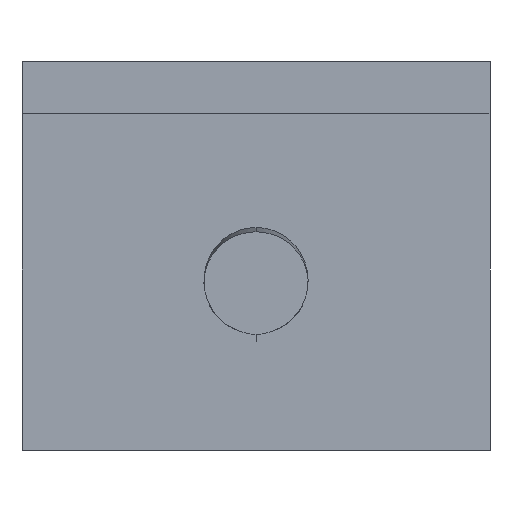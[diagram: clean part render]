
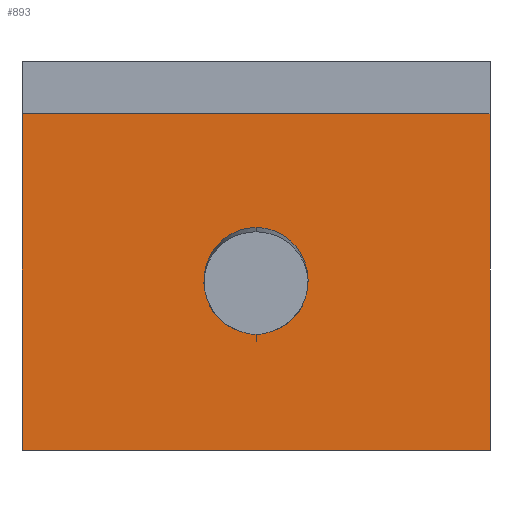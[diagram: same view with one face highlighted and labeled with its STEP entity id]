
A CAD part, front view. The second image highlights one B-rep face of the part: STEP entity #893.
In plain terms, the highlighted planar face has unit normal (0, -1, 0).
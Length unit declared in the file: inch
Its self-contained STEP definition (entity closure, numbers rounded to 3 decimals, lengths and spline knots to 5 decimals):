
#30 =( BOUNDED_CURVE ( )  B_SPLINE_CURVE ( 3, ( #247, #560, #740, #825 ),
 .UNSPECIFIED., .F., .F. ) 
 B_SPLINE_CURVE_WITH_KNOTS ( ( 4, 4 ),
 ( 5.95189, 6.28319 ),
 .UNSPECIFIED. ) 
 CURVE ( )  GEOMETRIC_REPRESENTATION_ITEM ( )  RATIONAL_B_SPLINE_CURVE ( ( 1., 0.991, 0.991, 1. ) ) 
 REPRESENTATION_ITEM ( '' )  );
#54 = CARTESIAN_POINT ( 'NONE',  ( -0.30079, -0.93171, -0.43307 ) ) ;
#94 = CARTESIAN_POINT ( 'NONE',  ( -0.01831, -0.93171, -0.28062 ) ) ;
#106 = CARTESIAN_POINT ( 'NONE',  ( 0., -0.93171, -0.14646 ) ) ;
#107 = CARTESIAN_POINT ( 'NONE',  ( -0.1183, -0.93171, -0.2516 ) ) ;
#139 = CARTESIAN_POINT ( 'NONE',  ( -0.01241, -0.93171, -0.28273 ) ) ;
#155 = PLANE ( 'NONE',  #970 ) ;
#160 = EDGE_CURVE ( 'NONE', #413, #888, #897, .T. ) ;
#189 = CARTESIAN_POINT ( 'NONE',  ( 0.1183, -0.93171, -0.2516 ) ) ;
#192 = VERTEX_POINT ( 'NONE', #748 ) ;
#208 = VERTEX_POINT ( 'NONE', #1090 ) ;
#221 = EDGE_CURVE ( 'NONE', #192, #679, #645, .T. ) ;
#228 = VERTEX_POINT ( 'NONE', #1009 ) ;
#231 = ORIENTED_EDGE ( 'NONE', *, *, #160, .T. ) ;
#232 = EDGE_CURVE ( 'NONE', #672, #413, #30, .T. ) ;
#245 = DIRECTION ( 'NONE',  ( 0., -1., 0. ) ) ;
#247 = CARTESIAN_POINT ( 'NONE',  ( 0.01831, -0.93171, -0.28062 ) ) ;
#259 = EDGE_CURVE ( 'NONE', #208, #892, #301, .T. ) ;
#264 = EDGE_LOOP ( 'NONE', ( #286, #612, #231, #425 ) ) ;
#269 = DIRECTION ( 'NONE',  ( 0., 0., 1. ) ) ;
#279 = EDGE_CURVE ( 'NONE', #892, #679, #971, .T. ) ;
#286 = ORIENTED_EDGE ( 'NONE', *, *, #405, .F. ) ;
#299 = CARTESIAN_POINT ( 'NONE',  ( -0.01831, -0.93171, -0.28062 ) ) ;
#301 = LINE ( 'NONE', #488, #1032 ) ;
#405 = EDGE_CURVE ( 'NONE', #672, #228, #429, .T. ) ;
#406 = DIRECTION ( 'NONE',  ( 1., 0., 0. ) ) ;
#413 = VERTEX_POINT ( 'NONE', #1044 ) ;
#425 = ORIENTED_EDGE ( 'NONE', *, *, #625, .F. ) ;
#429 =( BOUNDED_CURVE ( )  B_SPLINE_CURVE ( 3, ( #602, #189, #514, #106 ),
 .UNSPECIFIED., .F., .F. ) 
 B_SPLINE_CURVE_WITH_KNOTS ( ( 4, 4 ),
 ( 0.27698, 3.14159 ),
 .UNSPECIFIED. ) 
 CURVE ( )  GEOMETRIC_REPRESENTATION_ITEM ( )  RATIONAL_B_SPLINE_CURVE ( ( 1., 0.425, 0.425, 1. ) ) 
 REPRESENTATION_ITEM ( '' )  );
#475 = CARTESIAN_POINT ( 'NONE',  ( -0.00625, -0.93171, -0.2838 ) ) ;
#488 = CARTESIAN_POINT ( 'NONE',  ( -0.25, -0.93171, -0.43307 ) ) ;
#501 = EDGE_LOOP ( 'NONE', ( #945, #759, #820, #842 ) ) ;
#514 = CARTESIAN_POINT ( 'NONE',  ( 0.10395, -0.93171, -0.14646 ) ) ;
#560 = CARTESIAN_POINT ( 'NONE',  ( 0.01241, -0.93171, -0.28273 ) ) ;
#591 = CARTESIAN_POINT ( 'NONE',  ( 0.30079, -0.93171, 0. ) ) ;
#602 = CARTESIAN_POINT ( 'NONE',  ( 0.01831, -0.93171, -0.28062 ) ) ;
#612 = ORIENTED_EDGE ( 'NONE', *, *, #232, .T. ) ;
#625 = EDGE_CURVE ( 'NONE', #228, #888, #717, .T. ) ;
#631 = VECTOR ( 'NONE', #1081, 39.37008 ) ;
#645 = LINE ( 'NONE', #937, #718 ) ;
#672 = VERTEX_POINT ( 'NONE', #867 ) ;
#679 = VERTEX_POINT ( 'NONE', #591 ) ;
#687 = CARTESIAN_POINT ( 'NONE',  ( 0.30079, -0.93171, -0.43307 ) ) ;
#717 =( BOUNDED_CURVE ( )  B_SPLINE_CURVE ( 3, ( #864, #766, #107, #94 ),
 .UNSPECIFIED., .F., .F. ) 
 B_SPLINE_CURVE_WITH_KNOTS ( ( 4, 4 ),
 ( 3.14159, 6.0062 ),
 .UNSPECIFIED. ) 
 CURVE ( )  GEOMETRIC_REPRESENTATION_ITEM ( )  RATIONAL_B_SPLINE_CURVE ( ( 1., 0.425, 0.425, 1. ) ) 
 REPRESENTATION_ITEM ( '' )  );
#718 = VECTOR ( 'NONE', #837, 39.37008 ) ;
#732 = CARTESIAN_POINT ( 'NONE',  ( 0.30079, -0.93171, -0.43307 ) ) ;
#740 = CARTESIAN_POINT ( 'NONE',  ( 0.00625, -0.93171, -0.2838 ) ) ;
#748 = CARTESIAN_POINT ( 'NONE',  ( -0.30079, -0.93171, 0. ) ) ;
#759 = ORIENTED_EDGE ( 'NONE', *, *, #982, .F. ) ;
#766 = CARTESIAN_POINT ( 'NONE',  ( -0.10395, -0.93171, -0.14646 ) ) ;
#809 = CARTESIAN_POINT ( 'NONE',  ( -0.01831, -0.93171, -0.28062 ) ) ;
#820 = ORIENTED_EDGE ( 'NONE', *, *, #259, .T. ) ;
#821 = FACE_OUTER_BOUND ( 'NONE', #501, .T. ) ;
#825 = CARTESIAN_POINT ( 'NONE',  ( 0., -0.93171, -0.2838 ) ) ;
#829 = DIRECTION ( 'NONE',  ( 0., 0., -1. ) ) ;
#837 = DIRECTION ( 'NONE',  ( 1., 0., 0. ) ) ;
#842 = ORIENTED_EDGE ( 'NONE', *, *, #279, .T. ) ;
#864 = CARTESIAN_POINT ( 'NONE',  ( 0., -0.93171, -0.14646 ) ) ;
#867 = CARTESIAN_POINT ( 'NONE',  ( 0.01831, -0.93171, -0.28062 ) ) ;
#888 = VERTEX_POINT ( 'NONE', #809 ) ;
#892 = VERTEX_POINT ( 'NONE', #732 ) ;
#893 = ADVANCED_FACE ( 'NONE', ( #913, #821 ), #155, .T. ) ;
#897 =( BOUNDED_CURVE ( )  B_SPLINE_CURVE ( 3, ( #902, #475, #139, #299 ),
 .UNSPECIFIED., .F., .F. ) 
 B_SPLINE_CURVE_WITH_KNOTS ( ( 4, 4 ),
 ( 0., 0.33129 ),
 .UNSPECIFIED. ) 
 CURVE ( )  GEOMETRIC_REPRESENTATION_ITEM ( )  RATIONAL_B_SPLINE_CURVE ( ( 1., 0.991, 0.991, 1. ) ) 
 REPRESENTATION_ITEM ( '' )  );
#902 = CARTESIAN_POINT ( 'NONE',  ( 0., -0.93171, -0.2838 ) ) ;
#913 = FACE_BOUND ( 'NONE', #264, .T. ) ;
#937 = CARTESIAN_POINT ( 'NONE',  ( -0.30079, -0.93171, 0. ) ) ;
#945 = ORIENTED_EDGE ( 'NONE', *, *, #221, .F. ) ;
#970 = AXIS2_PLACEMENT_3D ( 'NONE', #988, #245, #829 ) ;
#971 = LINE ( 'NONE', #687, #1021 ) ;
#982 = EDGE_CURVE ( 'NONE', #208, #192, #1070, .T. ) ;
#988 = CARTESIAN_POINT ( 'NONE',  ( -0.25, -0.93171, -0.43307 ) ) ;
#1009 = CARTESIAN_POINT ( 'NONE',  ( 0., -0.93171, -0.14646 ) ) ;
#1021 = VECTOR ( 'NONE', #269, 39.37008 ) ;
#1032 = VECTOR ( 'NONE', #406, 39.37008 ) ;
#1044 = CARTESIAN_POINT ( 'NONE',  ( 0., -0.93171, -0.2838 ) ) ;
#1070 = LINE ( 'NONE', #54, #631 ) ;
#1081 = DIRECTION ( 'NONE',  ( 0., 0., 1. ) ) ;
#1090 = CARTESIAN_POINT ( 'NONE',  ( -0.30079, -0.93171, -0.43307 ) ) ;
